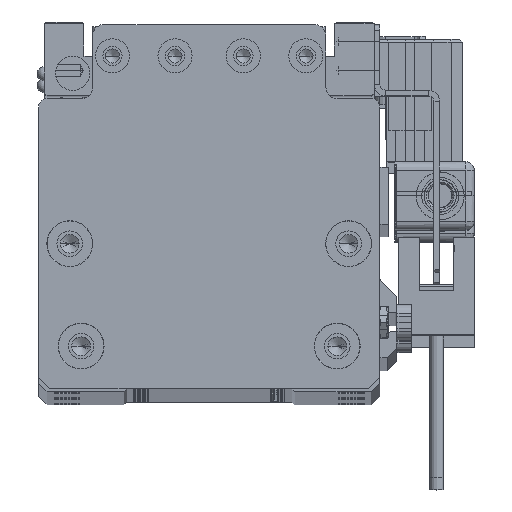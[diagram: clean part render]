
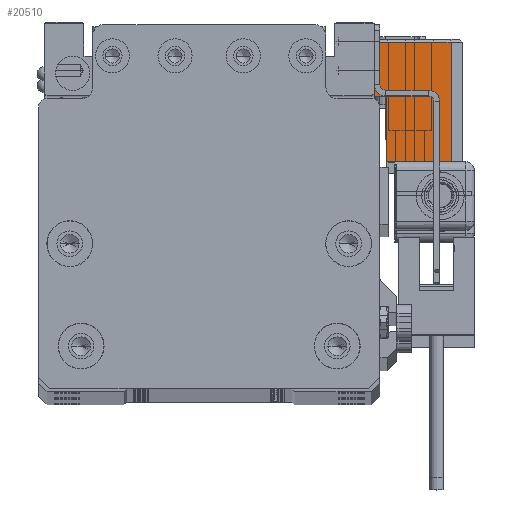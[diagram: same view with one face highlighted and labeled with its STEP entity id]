
A CAD part, top view. The second image highlights one B-rep face of the part: STEP entity #20510.
In plain terms, the highlighted planar face has unit normal (0, 0, 1) as drawn and (-1, 0, 0) by its records, which use the part's own axes.
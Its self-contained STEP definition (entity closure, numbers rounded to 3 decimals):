
#1418 = CARTESIAN_POINT ( 'NONE',  ( -17., 0.75, -15.5 ) ) ;
#2230 = CARTESIAN_POINT ( 'NONE',  ( -17., -10.75, -15.5 ) ) ;
#3710 = CARTESIAN_POINT ( 'NONE',  ( -17., -10.75, -13.3 ) ) ;
#4727 = EDGE_CURVE ( 'NONE', #55052, #24936, #22436, .T. ) ;
#4796 = DIRECTION ( 'NONE',  ( 0., 1., 0. ) ) ;
#5659 = EDGE_CURVE ( 'NONE', #75342, #27382, #37009, .T. ) ;
#10256 = CARTESIAN_POINT ( 'NONE',  ( -17., 10.75, -2. ) ) ;
#10903 = ORIENTED_EDGE ( 'NONE', *, *, #22257, .T. ) ;
#11933 = VECTOR ( 'NONE', #52729, 1000. ) ;
#14724 = LINE ( 'NONE', #2230, #54736 ) ;
#14805 = VECTOR ( 'NONE', #24072, 1000. ) ;
#14887 = DIRECTION ( 'NONE',  ( 0., 0., 1. ) ) ;
#15017 = ORIENTED_EDGE ( 'NONE', *, *, #42540, .T. ) ;
#15108 = DIRECTION ( 'NONE',  ( 0., 0., 1. ) ) ;
#20292 = ORIENTED_EDGE ( 'NONE', *, *, #4727, .T. ) ;
#20510 = ADVANCED_FACE ( 'NONE', ( #44630 ), #68915, .T. ) ;
#21893 = CARTESIAN_POINT ( 'NONE',  ( -17., -10.75, -15.5 ) ) ;
#22257 = EDGE_CURVE ( 'NONE', #24936, #75342, #34748, .T. ) ;
#22382 = CARTESIAN_POINT ( 'NONE',  ( -17., 10.25, -15.5 ) ) ;
#22436 = LINE ( 'NONE', #64745, #59706 ) ;
#23356 = CARTESIAN_POINT ( 'NONE',  ( -17., -10.75, -15.5 ) ) ;
#23514 = CARTESIAN_POINT ( 'NONE',  ( -17., -10.75, -2. ) ) ;
#24072 = DIRECTION ( 'NONE',  ( 0., 0., 1. ) ) ;
#24936 = VERTEX_POINT ( 'NONE', #22382 ) ;
#26027 = VECTOR ( 'NONE', #69497, 1000. ) ;
#27382 = VERTEX_POINT ( 'NONE', #59845 ) ;
#28161 = ORIENTED_EDGE ( 'NONE', *, *, #70131, .T. ) ;
#29482 = AXIS2_PLACEMENT_3D ( 'NONE', #21893, #56763, #14887 ) ;
#32334 = LINE ( 'NONE', #45598, #26027 ) ;
#34083 = CARTESIAN_POINT ( 'NONE',  ( -17., 0.75, -15.5 ) ) ;
#34748 = LINE ( 'NONE', #23356, #11933 ) ;
#37009 = LINE ( 'NONE', #1418, #14805 ) ;
#38401 = VERTEX_POINT ( 'NONE', #23514 ) ;
#42540 = EDGE_CURVE ( 'NONE', #51229, #38401, #14724, .T. ) ;
#44630 = FACE_OUTER_BOUND ( 'NONE', #47463, .T. ) ;
#45598 = CARTESIAN_POINT ( 'NONE',  ( -17., -10.75, -13.3 ) ) ;
#45950 = DIRECTION ( 'NONE',  ( 0., 0., -1. ) ) ;
#47463 = EDGE_LOOP ( 'NONE', ( #28161, #20292, #10903, #50322, #53702, #15017 ) ) ;
#50322 = ORIENTED_EDGE ( 'NONE', *, *, #5659, .T. ) ;
#51229 = VERTEX_POINT ( 'NONE', #3710 ) ;
#52729 = DIRECTION ( 'NONE',  ( 0., -1., 0. ) ) ;
#53130 = CARTESIAN_POINT ( 'NONE',  ( -17., 10.25, -2. ) ) ;
#53702 = ORIENTED_EDGE ( 'NONE', *, *, #58646, .T. ) ;
#54736 = VECTOR ( 'NONE', #15108, 1000. ) ;
#55052 = VERTEX_POINT ( 'NONE', #53130 ) ;
#56763 = DIRECTION ( 'NONE',  ( -1., 0., 0. ) ) ;
#58646 = EDGE_CURVE ( 'NONE', #27382, #51229, #32334, .T. ) ;
#59706 = VECTOR ( 'NONE', #45950, 1000. ) ;
#59845 = CARTESIAN_POINT ( 'NONE',  ( -17., 0.75, -13.3 ) ) ;
#64745 = CARTESIAN_POINT ( 'NONE',  ( -17., 10.25, -15.5 ) ) ;
#65062 = LINE ( 'NONE', #10256, #67335 ) ;
#67335 = VECTOR ( 'NONE', #4796, 1000. ) ;
#68915 = PLANE ( 'NONE',  #29482 ) ;
#69497 = DIRECTION ( 'NONE',  ( 0., -1., 0. ) ) ;
#70131 = EDGE_CURVE ( 'NONE', #38401, #55052, #65062, .T. ) ;
#75342 = VERTEX_POINT ( 'NONE', #34083 ) ;
